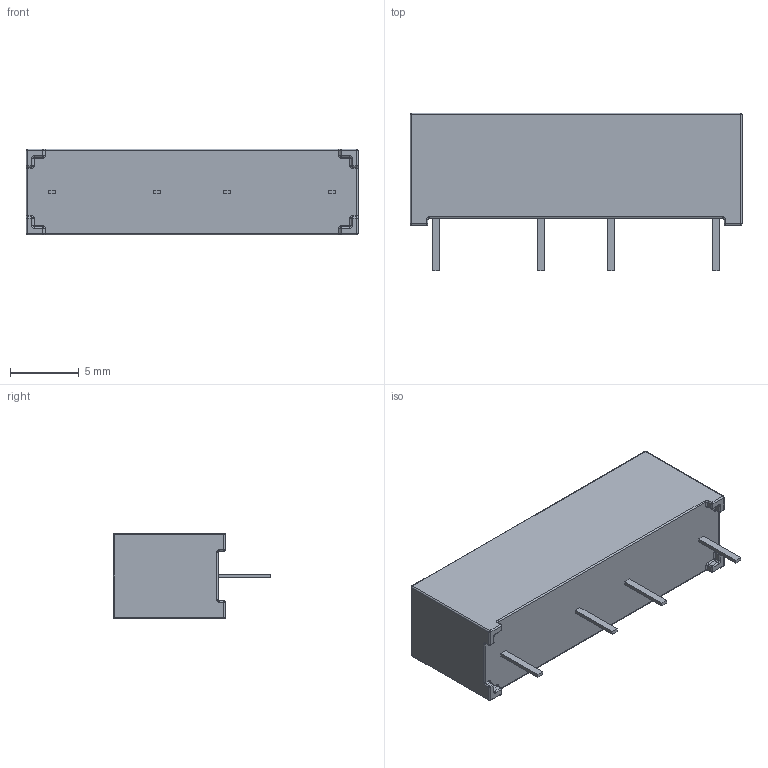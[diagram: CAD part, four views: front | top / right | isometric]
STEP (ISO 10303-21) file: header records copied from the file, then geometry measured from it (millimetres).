
FILE_DESCRIPTION (( 'STEP AP203' ), '1' );
FILE_NAME ('144-1-A-X-3X.STEP', '2024-03-15T15:21:24', ( '' ), ( '' ), 'SwSTEP 2.0', 'SolidWorks 2023', '' );
FILE_SCHEMA (( 'CONFIG_CONTROL_DESIGN' ));
Length unit declared in the file: millimetre
Products named in the file (1): 144-1-A-X-3X
Bounding box: 24.1 x 11.43 x 6.22 mm (x, y, z)
Volume: 1146.4 mm3; surface area: 787.9 mm2
Topology: 1 solids, 1 shells, 798 faces, 2070 edges, 1320 vertices
Faces by surface type: plane 457, bspline 221, cylinder 72, sphere 28, torus 20
Entity records: 35549 total; most frequent: CARTESIAN_POINT 17542, ORIENTED_EDGE 4084, DIRECTION 2920, EDGE_CURVE 2042, LINE 1436, VECTOR 1436, VERTEX_POINT 1320, EDGE_LOOP 872
